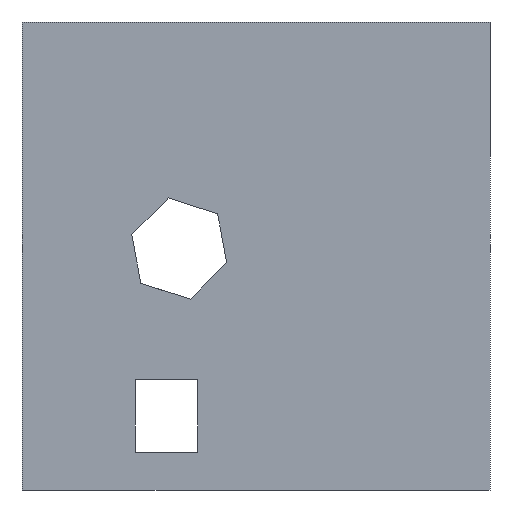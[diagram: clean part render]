
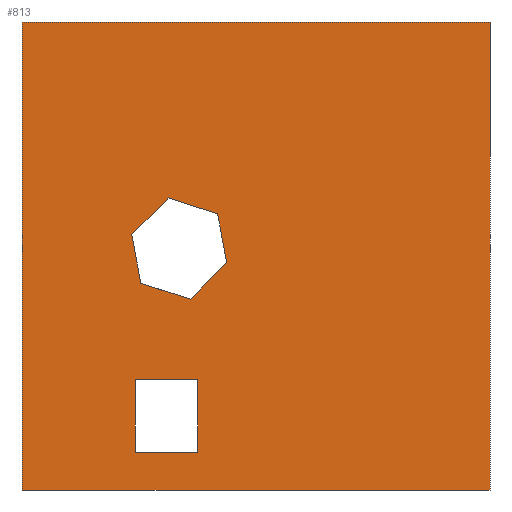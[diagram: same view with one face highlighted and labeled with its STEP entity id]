
A CAD part, front view. The second image highlights one B-rep face of the part: STEP entity #813.
In plain terms, the highlighted planar face has unit normal (0, -1, 0).
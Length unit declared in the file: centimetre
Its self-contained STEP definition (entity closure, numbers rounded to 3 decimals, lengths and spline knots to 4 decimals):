
#16 = EDGE_CURVE ( 'NONE', #85, #447, #1041, .T. ) ;
#20 = FACE_OUTER_BOUND ( 'NONE', #631, .T. ) ;
#21 = CARTESIAN_POINT ( 'NONE',  ( 241.6125, 0., 236.3432 ) ) ;
#24 = ORIENTED_EDGE ( 'NONE', *, *, #372, .F. ) ;
#26 = CARTESIAN_POINT ( 'NONE',  ( 0., 0., 1000. ) ) ;
#28 = DIRECTION ( 'NONE',  ( 0.707, 0., 0.707 ) ) ;
#36 = EDGE_CURVE ( 'NONE', #611, #81, #1005, .T. ) ;
#39 = EDGE_LOOP ( 'NONE', ( #696, #75, #401, #68, #477, #857 ) ) ;
#43 = CARTESIAN_POINT ( 'NONE',  ( 254.0024, 0., 441.6433 ) ) ;
#44 = EDGE_CURVE ( 'NONE', #411, #268, #284, .T. ) ;
#48 = VECTOR ( 'NONE', #384, 100. ) ;
#68 = ORIENTED_EDGE ( 'NONE', *, *, #911, .F. ) ;
#75 = ORIENTED_EDGE ( 'NONE', *, *, #202, .F. ) ;
#81 = VERTEX_POINT ( 'NONE', #156 ) ;
#83 = VECTOR ( 'NONE', #854, 100. ) ;
#85 = VERTEX_POINT ( 'NONE', #96 ) ;
#96 = CARTESIAN_POINT ( 'NONE',  ( 1000., 0., 1000. ) ) ;
#97 = VERTEX_POINT ( 'NONE', #478 ) ;
#105 = DIRECTION ( 'NONE',  ( 0.952, 0., -0.306 ) ) ;
#113 = ORIENTED_EDGE ( 'NONE', *, *, #16, .F. ) ;
#120 = CARTESIAN_POINT ( 'NONE',  ( 241.6125, 0., 80.4227 ) ) ;
#124 = LINE ( 'NONE', #291, #916 ) ;
#125 = DIRECTION ( 'NONE',  ( 0.183, 0., -0.983 ) ) ;
#141 = EDGE_LOOP ( 'NONE', ( #24, #807, #510, #770 ) ) ;
#149 = AXIS2_PLACEMENT_3D ( 'NONE', #181, #682, #602 ) ;
#156 = CARTESIAN_POINT ( 'NONE',  ( 375.6296, 0., 236.3432 ) ) ;
#163 = VERTEX_POINT ( 'NONE', #416 ) ;
#164 = DIRECTION ( 'NONE',  ( -0.183, 0., 0.983 ) ) ;
#181 = CARTESIAN_POINT ( 'NONE',  ( 0., 0., 1000. ) ) ;
#190 = ORIENTED_EDGE ( 'NONE', *, *, #1000, .F. ) ;
#202 = EDGE_CURVE ( 'NONE', #163, #240, #265, .T. ) ;
#208 = LINE ( 'NONE', #26, #460 ) ;
#209 = LINE ( 'NONE', #529, #83 ) ;
#226 = VECTOR ( 'NONE', #355, 100. ) ;
#240 = VERTEX_POINT ( 'NONE', #536 ) ;
#245 = EDGE_CURVE ( 'NONE', #1047, #734, #208, .T. ) ;
#264 = LINE ( 'NONE', #273, #338 ) ;
#265 = LINE ( 'NONE', #906, #865 ) ;
#268 = VERTEX_POINT ( 'NONE', #305 ) ;
#273 = CARTESIAN_POINT ( 'NONE',  ( 254.0024, 0., 441.6433 ) ) ;
#284 = LINE ( 'NONE', #997, #1021 ) ;
#291 = CARTESIAN_POINT ( 'NONE',  ( 0., 0., 1000. ) ) ;
#303 = CARTESIAN_POINT ( 'NONE',  ( 0., 0., 1000. ) ) ;
#305 = CARTESIAN_POINT ( 'NONE',  ( 241.6125, 0., 80.4227 ) ) ;
#307 = LINE ( 'NONE', #376, #48 ) ;
#314 = VERTEX_POINT ( 'NONE', #395 ) ;
#338 = VECTOR ( 'NONE', #105, 100. ) ;
#345 = ORIENTED_EDGE ( 'NONE', *, *, #550, .T. ) ;
#350 = CARTESIAN_POINT ( 'NONE',  ( 359.272, 0., 407.7717 ) ) ;
#355 = DIRECTION ( 'NONE',  ( 0., 0., 1. ) ) ;
#359 = EDGE_CURVE ( 'NONE', #515, #163, #442, .T. ) ;
#372 = EDGE_CURVE ( 'NONE', #268, #611, #451, .T. ) ;
#376 = CARTESIAN_POINT ( 'NONE',  ( 241.6125, 0., 236.3432 ) ) ;
#384 = DIRECTION ( 'NONE',  ( -1., 0., 0. ) ) ;
#392 = LINE ( 'NONE', #649, #949 ) ;
#395 = CARTESIAN_POINT ( 'NONE',  ( 312.6698, 0., 623.9756 ) ) ;
#401 = ORIENTED_EDGE ( 'NONE', *, *, #359, .F. ) ;
#411 = VERTEX_POINT ( 'NONE', #21 ) ;
#415 = ORIENTED_EDGE ( 'NONE', *, *, #245, .T. ) ;
#416 = CARTESIAN_POINT ( 'NONE',  ( 437.3714, 0., 485.8711 ) ) ;
#429 = EDGE_CURVE ( 'NONE', #97, #1051, #833, .T. ) ;
#432 = VECTOR ( 'NONE', #639, 100. ) ;
#442 = LINE ( 'NONE', #350, #727 ) ;
#447 = VERTEX_POINT ( 'NONE', #913 ) ;
#451 = LINE ( 'NONE', #120, #645 ) ;
#460 = VECTOR ( 'NONE', #777, 100. ) ;
#462 = LINE ( 'NONE', #530, #982 ) ;
#477 = ORIENTED_EDGE ( 'NONE', *, *, #429, .F. ) ;
#478 = CARTESIAN_POINT ( 'NONE',  ( 234.5704, 0., 545.8762 ) ) ;
#482 = CARTESIAN_POINT ( 'NONE',  ( 1000., 0., 1000. ) ) ;
#498 = CARTESIAN_POINT ( 'NONE',  ( 375.6296, 0., 80.4227 ) ) ;
#510 = ORIENTED_EDGE ( 'NONE', *, *, #584, .F. ) ;
#515 = VERTEX_POINT ( 'NONE', #937 ) ;
#517 = DIRECTION ( 'NONE',  ( 1., 0., 0. ) ) ;
#529 = CARTESIAN_POINT ( 'NONE',  ( 312.6698, 0., 623.9756 ) ) ;
#530 = CARTESIAN_POINT ( 'NONE',  ( 0., 0., 0. ) ) ;
#534 = DIRECTION ( 'NONE',  ( 1., 0., 0. ) ) ;
#536 = CARTESIAN_POINT ( 'NONE',  ( 417.9394, 0., 590.1039 ) ) ;
#550 = EDGE_CURVE ( 'NONE', #734, #447, #462, .T. ) ;
#584 = EDGE_CURVE ( 'NONE', #81, #411, #307, .T. ) ;
#602 = DIRECTION ( 'NONE',  ( 0., 0., 1. ) ) ;
#606 = DIRECTION ( 'NONE',  ( 0., 0., -1. ) ) ;
#611 = VERTEX_POINT ( 'NONE', #704 ) ;
#631 = EDGE_LOOP ( 'NONE', ( #345, #113, #190, #415 ) ) ;
#639 = DIRECTION ( 'NONE',  ( 0., 0., -1. ) ) ;
#640 = CARTESIAN_POINT ( 'NONE',  ( 0., 0., 0. ) ) ;
#645 = VECTOR ( 'NONE', #517, 100. ) ;
#649 = CARTESIAN_POINT ( 'NONE',  ( 417.9394, 0., 590.1039 ) ) ;
#673 = FACE_BOUND ( 'NONE', #141, .T. ) ;
#682 = DIRECTION ( 'NONE',  ( 0., 1., 0. ) ) ;
#696 = ORIENTED_EDGE ( 'NONE', *, *, #703, .F. ) ;
#698 = VECTOR ( 'NONE', #125, 100. ) ;
#699 = DIRECTION ( 'NONE',  ( 1., 0., 0. ) ) ;
#703 = EDGE_CURVE ( 'NONE', #240, #314, #392, .T. ) ;
#704 = CARTESIAN_POINT ( 'NONE',  ( 375.6296, 0., 80.4227 ) ) ;
#727 = VECTOR ( 'NONE', #28, 100. ) ;
#734 = VERTEX_POINT ( 'NONE', #640 ) ;
#754 = FACE_BOUND ( 'NONE', #39, .T. ) ;
#770 = ORIENTED_EDGE ( 'NONE', *, *, #36, .F. ) ;
#777 = DIRECTION ( 'NONE',  ( 0., 0., -1. ) ) ;
#802 = DIRECTION ( 'NONE',  ( -0.952, 0., 0.306 ) ) ;
#807 = ORIENTED_EDGE ( 'NONE', *, *, #44, .F. ) ;
#813 = ADVANCED_FACE ( 'NONE', ( #673, #754, #20 ), #1006, .F. ) ;
#833 = LINE ( 'NONE', #849, #698 ) ;
#849 = CARTESIAN_POINT ( 'NONE',  ( 234.5704, 0., 545.8762 ) ) ;
#854 = DIRECTION ( 'NONE',  ( -0.707, 0., -0.707 ) ) ;
#857 = ORIENTED_EDGE ( 'NONE', *, *, #1038, .F. ) ;
#865 = VECTOR ( 'NONE', #164, 100. ) ;
#906 = CARTESIAN_POINT ( 'NONE',  ( 437.3714, 0., 485.8711 ) ) ;
#911 = EDGE_CURVE ( 'NONE', #1051, #515, #264, .T. ) ;
#913 = CARTESIAN_POINT ( 'NONE',  ( 1000., 0., 0. ) ) ;
#916 = VECTOR ( 'NONE', #534, 100. ) ;
#937 = CARTESIAN_POINT ( 'NONE',  ( 359.272, 0., 407.7717 ) ) ;
#949 = VECTOR ( 'NONE', #802, 100. ) ;
#982 = VECTOR ( 'NONE', #699, 100. ) ;
#997 = CARTESIAN_POINT ( 'NONE',  ( 241.6125, 0., 80.4227 ) ) ;
#1000 = EDGE_CURVE ( 'NONE', #1047, #85, #124, .T. ) ;
#1005 = LINE ( 'NONE', #498, #226 ) ;
#1006 = PLANE ( 'NONE',  #149 ) ;
#1021 = VECTOR ( 'NONE', #606, 100. ) ;
#1038 = EDGE_CURVE ( 'NONE', #314, #97, #209, .T. ) ;
#1041 = LINE ( 'NONE', #482, #432 ) ;
#1047 = VERTEX_POINT ( 'NONE', #303 ) ;
#1051 = VERTEX_POINT ( 'NONE', #43 ) ;
